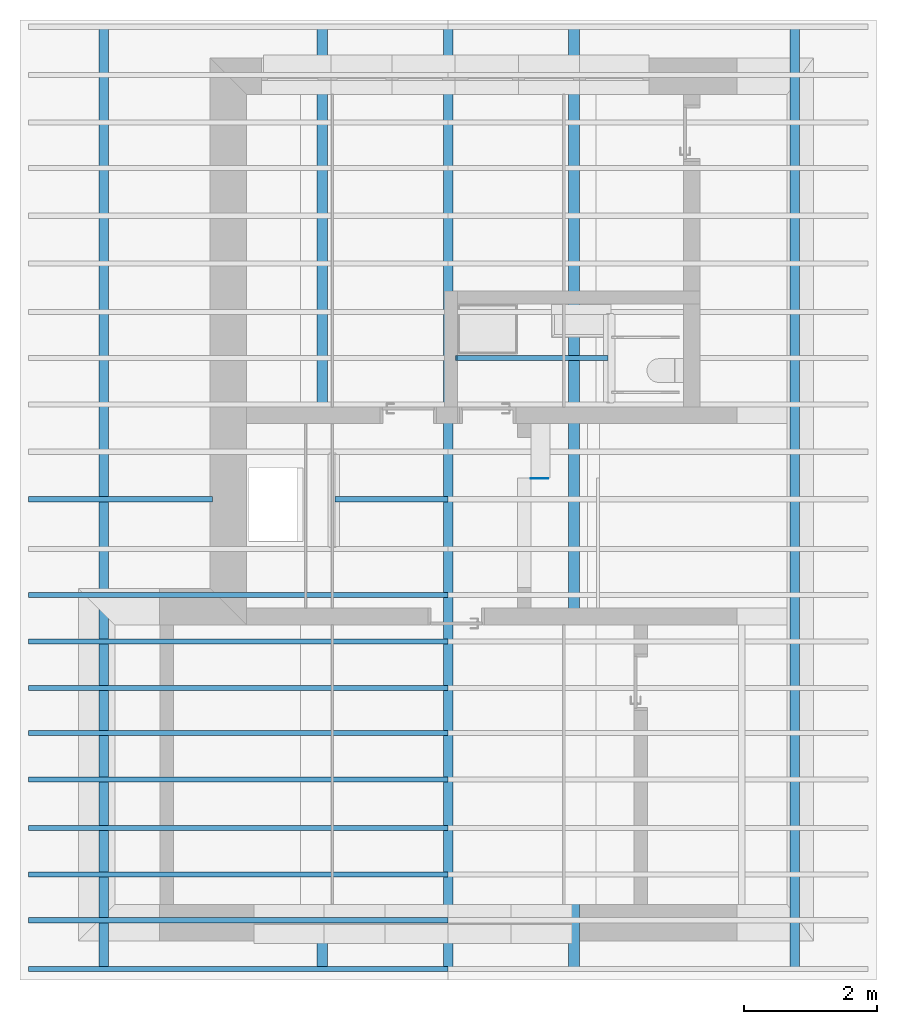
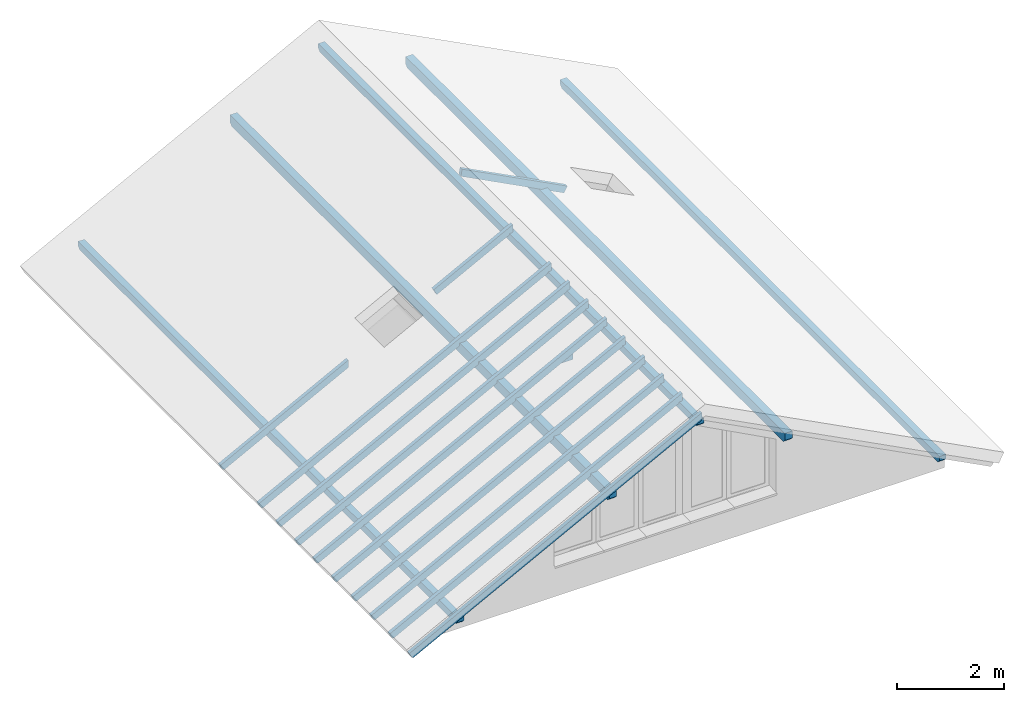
# One storey, part 1 of 18: 17 beams, 1 member, 1 element without a shape of its own.
"""IFC2X3 building model written with IfcOpenShell, lengths in metres."""

from ifc_helpers import new_model, entity, si_unit, converted_unit, derived_unit, direction, frame, frame_2d, origin, place, context, subcontext, project, spatial, rectangle, extrude, clip, halfspace, faceted_brep, material, type_object, element, aggregate, save


model = new_model("IFC2X3")

# Units and contexts
model_context = context("Model", 3, precision=1e-05, world=origin(), true_north=direction((6.123233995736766e-17, 1.0)))
body_context = subcontext(model_context, "Body", "Model", "MODEL_VIEW")
ifc_project = project(units=[si_unit("LENGTHUNIT", "METRE"), si_unit("AREAUNIT", "SQUARE_METRE"), si_unit("VOLUMEUNIT", "CUBIC_METRE"), si_unit("POWERUNIT", "WATT"), derived_unit("USERDEFINED", [(si_unit("MASSUNIT", "GRAM", prefix="KILO"), 1), (si_unit("TIMEUNIT", "SECOND"), -3)]), derived_unit("THERMALRESISTANCEUNIT", [(si_unit("MASSUNIT", "GRAM", prefix="KILO"), -1), (si_unit("TIMEUNIT", "SECOND"), 3), (si_unit("THERMODYNAMICTEMPERATUREUNIT", "KELVIN"), 1)]), derived_unit("USERDEFINED", [(si_unit("MASSUNIT", "GRAM", prefix="KILO"), 1), (si_unit("TIMEUNIT", "SECOND"), -2), (si_unit("THERMODYNAMICTEMPERATUREUNIT", "KELVIN"), -1)]), derived_unit("THERMALTRANSMITTANCEUNIT", [(si_unit("MASSUNIT", "GRAM", prefix="KILO"), 1), (si_unit("TIMEUNIT", "SECOND"), -3), (si_unit("THERMODYNAMICTEMPERATUREUNIT", "KELVIN"), -1)]), converted_unit("PLANEANGLEUNIT", "DEGREE", entity("IfcPlaneAngleMeasure", 0.017453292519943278), si_unit("PLANEANGLEUNIT", "RADIAN"), dimensions=[0, 0, 0, 0, 0, 0, 0]), derived_unit("MOMENTOFINERTIAUNIT", [(si_unit("LENGTHUNIT", "METRE"), 4)])], contexts=[model_context])

# Site, building, storey
site_placement = place(None, origin())
site = spatial("IfcSite", under=ifc_project, at=site_placement, Name="Default", CompositionType="ELEMENT")
building_placement = place(site_placement, origin())
building = spatial("IfcBuilding", under=site, at=building_placement, CompositionType="ELEMENT")
storey_placement = place(building_placement, frame((0.0, 0.0, 5.4)))
storey = spatial("IfcBuildingStorey", under=building, at=storey_placement, Name="1. Obergeschoss", CompositionType="ELEMENT", Elevation=5.4)

# Stair, member
type_product = type_object("IfcTypeProduct", Name="Zusammengebaute Treppe:Wangen Stahl - Stufen Holz - 1 Stockwerkstrennlinie")
stair_placement = place(storey_placement, origin())
stair = element("IfcStair", 1, at=stair_placement, inside=storey, type_object=type_product, Name="Zusammengebaute Treppe:Treppe", ObjectType="Zusammengebaute Treppe:Wangen Stahl - Stufen Holz - 1 Stockwerkstrennlinie", ShapeType="STRAIGHT_RUN_STAIR")
ifc_material_1 = material(Name="<Unnamed>")
member_type = type_object("IfcMemberType", Name="Wange:Metall 10 x 260", PredefinedType="STRINGER")
member_placement = place(stair_placement, frame((34.36875489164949, 22.252272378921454, -0.3500000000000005)))
member = element("IfcMember", 2, at=member_placement, type_object=member_type, material=ifc_material_1, Name="Zusammengebaute Treppe:Treppe:2595612 Stringer 1", ObjectType="Wange:Metall 10 x 260", context=body_context, shape_type="SweptSolid", body=[
    extrude(rectangle(XDim=0.26000000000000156, YDim=0.010000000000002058, at=frame_2d((0.0, -2.1658022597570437e-15), x_axis=(1.0, 0.0))), frame((0.13000000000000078, 0.005000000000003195, 0.0)), (0.0, 0.0, 1.0), 0.26000000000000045),
])
aggregate(stair, [member])

# Beams
ifc_material_2 = material(Name="Holz - Astfichte")
beam_type_1 = type_object("IfcBeamType", Name="Skelettbau Holz - Sparren mit Zierkopf:80 x 150", PredefinedType="BEAM")
beam_1_placement = place(storey_placement, frame((26.80257715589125, 14.827503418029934, 0.05454015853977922), z_axis=(-0.4617486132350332, 0.0, 0.887010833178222), x_axis=(0.887010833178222, 0.0, 0.4617486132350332)))
element("IfcBeam", 3, at=beam_1_placement, inside=storey, type_object=beam_type_1, material=ifc_material_2, Name="Skelettbau Holz - Sparren mit Zierkopf:80 x 150", ObjectType="Skelettbau Holz - Sparren mit Zierkopf:80 x 150", context=body_context, shape_type="Brep", body=[
    faceted_brep([(7.180713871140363, 0.0, 0.10702535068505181), (7.180713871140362, 0.08000000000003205, 0.10702535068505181), (0.05571387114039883, 0.08000000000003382, 0.1070253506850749), (0.055713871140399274, 0.0, 0.1070253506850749), (0.0957138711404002, 0.0, -0.04297464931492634), (0.09571387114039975, 0.08000000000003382, -0.04297464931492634), (0.20571387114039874, 0.08000000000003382, -0.04297464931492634), (7.102628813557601, 0.08000000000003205, -0.042974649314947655), (7.102628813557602, 0.0, -0.042974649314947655), (0.20571387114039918, 0.0, -0.04297464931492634), (0.055713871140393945, 0.08000000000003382, -0.0029746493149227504), (0.0853611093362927, 0.08000000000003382, -0.0416116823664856), (0.0757138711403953, 0.08000000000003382, -0.03761566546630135), (0.06742959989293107, 0.08000000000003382, -0.03125892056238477), (0.0610728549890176, 0.08000000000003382, -0.0229746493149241), (0.057076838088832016, 0.08000000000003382, -0.01332741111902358), (0.05571387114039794, 0.0, -0.002974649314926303), (0.05707683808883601, 0.0, -0.013327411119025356), (0.061072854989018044, 0.0, -0.0229746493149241), (0.06742959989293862, 0.0, -0.031258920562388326), (0.07571387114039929, 0.0, -0.03761566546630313), (0.0853611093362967, 0.0, -0.041611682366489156)], [[[0, 1, 2, 3]], [[4, 5, 6, 7, 8, 9]], [[10, 2, 1, 7, 6, 5, 11, 12, 13, 14, 15]], [[4, 9, 8, 0, 3, 16, 17, 18, 19, 20, 21]], [[16, 10, 15, 17]], [[17, 15, 14, 18]], [[18, 14, 13, 19]], [[20, 12, 11, 21]], [[21, 11, 5, 4]], [[20, 19, 13, 12]], [[3, 2, 10, 16]], [[0, 8, 7, 1]]]),
])
beam_2_placement = place(storey_placement, frame((26.802577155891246, 15.562503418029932, 0.05454015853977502), z_axis=(-0.4617486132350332, 0.0, 0.887010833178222), x_axis=(0.887010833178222, 0.0, 0.4617486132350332)))
element("IfcBeam", 4, at=beam_2_placement, inside=storey, type_object=beam_type_1, material=ifc_material_2, Name="Skelettbau Holz - Sparren mit Zierkopf:80 x 150", ObjectType="Skelettbau Holz - Sparren mit Zierkopf:80 x 150", context=body_context, shape_type="Brep", body=[
    faceted_brep([(7.180713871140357, 0.0, 0.10702535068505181), (7.180713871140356, 0.08000000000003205, 0.10702535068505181), (0.05571387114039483, 0.08000000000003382, 0.10702535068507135), (0.05571387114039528, 0.0, 0.10702535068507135), (0.0957138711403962, 0.0, -0.042974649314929), (0.09571387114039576, 0.08000000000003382, -0.042974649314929), (0.2057138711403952, 0.08000000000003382, -0.042974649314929), (7.102628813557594, 0.08000000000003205, -0.04297464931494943), (7.102628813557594, 0.0, -0.04297464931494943), (0.20571387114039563, 0.0, -0.042974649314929), (0.055713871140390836, 0.08000000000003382, -0.002974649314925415), (0.08536110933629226, 0.08000000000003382, -0.04161168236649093), (0.07571387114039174, 0.08000000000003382, -0.037615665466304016), (0.06742959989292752, 0.08000000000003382, -0.031258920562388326), (0.0610728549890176, 0.08000000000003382, -0.022974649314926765), (0.057076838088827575, 0.08000000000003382, -0.013327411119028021), (0.05571387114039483, 0.0, -0.0029746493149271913), (0.05707683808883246, 0.0, -0.013327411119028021), (0.061072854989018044, 0.0, -0.022974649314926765), (0.06742959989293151, 0.0, -0.0312589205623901), (0.07571387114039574, 0.0, -0.03761566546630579), (0.08536110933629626, 0.0, -0.04161168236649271)], [[[0, 1, 2, 3]], [[4, 5, 6, 7, 8, 9]], [[10, 2, 1, 7, 6, 5, 11, 12, 13, 14, 15]], [[4, 9, 8, 0, 3, 16, 17, 18, 19, 20, 21]], [[16, 10, 15, 17]], [[17, 15, 14, 18]], [[18, 14, 13, 19]], [[20, 12, 11, 21]], [[21, 11, 5, 4]], [[20, 19, 13, 12]], [[3, 2, 10, 16]], [[0, 8, 7, 1]]]),
])
beam_3_placement = place(storey_placement, frame((26.802577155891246, 16.252503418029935, 0.05454015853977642), z_axis=(-0.4617486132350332, 0.0, 0.887010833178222), x_axis=(0.887010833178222, 0.0, 0.4617486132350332)))
element("IfcBeam", 5, at=beam_3_placement, inside=storey, type_object=beam_type_1, material=ifc_material_2, Name="Skelettbau Holz - Sparren mit Zierkopf:80 x 150", ObjectType="Skelettbau Holz - Sparren mit Zierkopf:80 x 150", context=body_context, shape_type="Brep", body=[
    faceted_brep([(7.180713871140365, 0.0, 0.10702535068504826), (7.180713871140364, 0.08000000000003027, 0.10702535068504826), (0.05571387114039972, 0.08000000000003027, 0.10702535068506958), (0.05571387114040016, 0.0, 0.10702535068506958), (0.09571387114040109, 0.0, -0.04297464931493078), (0.09571387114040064, 0.08000000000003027, -0.04297464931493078), (0.20571387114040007, 0.08000000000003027, -0.04297464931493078), (7.102628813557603, 0.08000000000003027, -0.042974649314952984), (7.102628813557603, 0.0, -0.042974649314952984), (0.20571387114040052, 0.0, -0.04297464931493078), (0.05571387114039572, 0.08000000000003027, -0.0029746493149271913), (0.0853611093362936, 0.08000000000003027, -0.04161168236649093), (0.07571387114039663, 0.08000000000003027, -0.03761566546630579), (0.0674295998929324, 0.08000000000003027, -0.0312589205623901), (0.06107285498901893, 0.08000000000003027, -0.02297464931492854), (0.05707683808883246, 0.08000000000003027, -0.013327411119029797), (0.05571387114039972, 0.0, -0.002974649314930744), (0.057076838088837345, 0.0, -0.013327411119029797), (0.061072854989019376, 0.0, -0.02297464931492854), (0.06742959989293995, 0.0, -0.031258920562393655), (0.07571387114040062, 0.0, -0.03761566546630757), (0.08536110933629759, 0.0, -0.041611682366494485)], [[[0, 1, 2, 3]], [[4, 5, 6, 7, 8, 9]], [[10, 2, 1, 7, 6, 5, 11, 12, 13, 14, 15]], [[4, 9, 8, 0, 3, 16, 17, 18, 19, 20, 21]], [[16, 10, 15, 17]], [[17, 15, 14, 18]], [[18, 14, 13, 19]], [[20, 12, 11, 21]], [[21, 11, 5, 4]], [[20, 19, 13, 12]], [[3, 2, 10, 16]], [[0, 8, 7, 1]]]),
])
beam_4_placement = place(storey_placement, frame((26.802577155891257, 16.95250341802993, 0.05454015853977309), z_axis=(-0.4617486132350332, 0.0, 0.887010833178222), x_axis=(0.887010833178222, 0.0, 0.4617486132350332)))
element("IfcBeam", 6, at=beam_4_placement, inside=storey, type_object=beam_type_1, material=ifc_material_2, Name="Skelettbau Holz - Sparren mit Zierkopf:80 x 150", ObjectType="Skelettbau Holz - Sparren mit Zierkopf:80 x 150", context=body_context, shape_type="Brep", body=[
    faceted_brep([(7.180713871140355, 0.0, 0.1070253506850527), (7.180713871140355, 0.08000000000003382, 0.10702535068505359), (0.05571387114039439, 0.08000000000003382, 0.10702535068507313), (0.05571387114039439, 0.0, 0.10702535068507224), (0.09571387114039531, 0.0, -0.042974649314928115), (0.09571387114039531, 0.08000000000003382, -0.04297464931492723), (0.20571387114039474, 0.08000000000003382, -0.04297464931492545), (7.102628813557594, 0.08000000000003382, -0.042974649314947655), (7.102628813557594, 0.0, -0.04297464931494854), (0.20571387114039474, 0.0, -0.04297464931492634), (0.05571387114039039, 0.08000000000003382, -0.002974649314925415), (0.08536110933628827, 0.08000000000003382, -0.041611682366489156), (0.0757138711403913, 0.08000000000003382, -0.03761566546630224), (0.06742959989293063, 0.08000000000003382, -0.031258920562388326), (0.0610728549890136, 0.08000000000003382, -0.02297464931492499), (0.05707683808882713, 0.08000000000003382, -0.013327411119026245), (0.055713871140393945, 0.0, -0.0029746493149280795), (0.05707683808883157, 0.0, -0.013327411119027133), (0.0610728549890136, 0.0, -0.022974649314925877), (0.06742959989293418, 0.0, -0.03125892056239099), (0.07571387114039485, 0.0, -0.037615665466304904), (0.08536110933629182, 0.0, -0.041611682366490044)], [[[0, 1, 2, 3]], [[4, 5, 6, 7, 8, 9]], [[10, 2, 1, 7, 6, 5, 11, 12, 13, 14, 15]], [[4, 9, 8, 0, 3, 16, 17, 18, 19, 20, 21]], [[16, 10, 15, 17]], [[17, 15, 14, 18]], [[18, 14, 13, 19]], [[20, 12, 11, 21]], [[21, 11, 5, 4]], [[20, 19, 13, 12]], [[3, 2, 10, 16]], [[0, 8, 7, 1]]]),
])
beam_5_placement = place(storey_placement, frame((26.80257715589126, 17.68205263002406, 0.05454015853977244), z_axis=(-0.4617486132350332, 0.0, 0.887010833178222), x_axis=(0.887010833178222, 0.0, 0.4617486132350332)))
element("IfcBeam", 7, at=beam_5_placement, inside=storey, type_object=beam_type_1, material=ifc_material_2, Name="Skelettbau Holz - Sparren mit Zierkopf:80 x 150", ObjectType="Skelettbau Holz - Sparren mit Zierkopf:80 x 150", context=body_context, shape_type="Brep", body=[
    faceted_brep([(7.18071387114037, 0.0, 0.10702535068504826), (7.18071387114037, 0.08000000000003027, 0.10702535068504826), (0.05571387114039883, 0.08000000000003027, 0.10702535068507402), (0.05571387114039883, 0.0, 0.10702535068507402), (0.09571387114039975, 0.0, -0.04297464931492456), (0.09571387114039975, 0.08000000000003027, -0.04297464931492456), (0.20571387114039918, 0.08000000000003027, -0.042974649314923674), (7.102628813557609, 0.08000000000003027, -0.04297464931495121), (7.102628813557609, 0.0, -0.04297464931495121), (0.20571387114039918, 0.0, -0.042974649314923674), (0.05571387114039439, 0.08000000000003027, -0.002974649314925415), (0.08536110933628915, 0.08000000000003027, -0.04161168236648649), (0.07571387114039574, 0.08000000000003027, -0.03761566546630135), (0.06742959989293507, 0.08000000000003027, -0.03125892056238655), (0.0610728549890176, 0.08000000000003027, -0.0229746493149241), (0.057076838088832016, 0.08000000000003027, -0.013327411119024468), (0.05571387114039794, 0.0, -0.0029746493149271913), (0.05707683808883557, 0.0, -0.013327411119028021), (0.0610728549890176, 0.0, -0.0229746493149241), (0.06742959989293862, 0.0, -0.031258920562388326), (0.07571387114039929, 0.0, -0.03761566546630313), (0.08536110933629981, 0.0, -0.041611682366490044)], [[[0, 1, 2, 3]], [[4, 5, 6, 7, 8, 9]], [[10, 2, 1, 7, 6, 5, 11, 12, 13, 14, 15]], [[4, 9, 8, 0, 3, 16, 17, 18, 19, 20, 21]], [[16, 10, 15, 17]], [[17, 15, 14, 18]], [[18, 14, 13, 19]], [[20, 12, 11, 21]], [[21, 11, 5, 4]], [[20, 19, 13, 12]], [[3, 2, 10, 16]], [[0, 8, 7, 1]]]),
])
beam_6_placement = place(storey_placement, frame((26.802577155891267, 18.382052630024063, 0.054540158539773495), z_axis=(-0.4617486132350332, 0.0, 0.887010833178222), x_axis=(0.887010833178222, 0.0, 0.4617486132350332)))
element("IfcBeam", 8, at=beam_6_placement, inside=storey, type_object=beam_type_1, material=ifc_material_2, Name="Skelettbau Holz - Sparren mit Zierkopf:80 x 150", ObjectType="Skelettbau Holz - Sparren mit Zierkopf:80 x 150", context=body_context, shape_type="Brep", body=[
    faceted_brep([(7.180713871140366, 0.0, 0.10702535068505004), (7.180713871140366, 0.08000000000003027, 0.10702535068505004), (0.055713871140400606, 0.08000000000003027, 0.10702535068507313), (0.055713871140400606, 0.0, 0.10702535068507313), (0.09571387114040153, 0.0, -0.04297464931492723), (0.09571387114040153, 0.08000000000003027, -0.04297464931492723), (0.2057138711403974, 0.08000000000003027, -0.04297464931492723), (7.102628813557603, 0.08000000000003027, -0.04297464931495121), (7.102628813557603, 0.0, -0.04297464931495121), (0.2057138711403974, 0.0, -0.04297464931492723), (0.055713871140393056, 0.08000000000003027, -0.002974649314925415), (0.08536110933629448, 0.08000000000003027, -0.041611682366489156), (0.07571387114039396, 0.08000000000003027, -0.03761566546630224), (0.06742959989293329, 0.08000000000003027, -0.031258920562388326), (0.06107285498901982, 0.08000000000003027, -0.022974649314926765), (0.057076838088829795, 0.08000000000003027, -0.013327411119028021), (0.05571387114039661, 0.0, -0.0029746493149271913), (0.057076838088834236, 0.0, -0.013327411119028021), (0.06107285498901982, 0.0, -0.022974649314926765), (0.06742959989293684, 0.0, -0.0312589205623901), (0.07571387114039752, 0.0, -0.037615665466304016), (0.08536110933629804, 0.0, -0.04161168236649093)], [[[0, 1, 2, 3]], [[4, 5, 6, 7, 8, 9]], [[10, 2, 1, 7, 6, 5, 11, 12, 13, 14, 15]], [[4, 9, 8, 0, 3, 16, 17, 18, 19, 20, 21]], [[16, 10, 15, 17]], [[17, 15, 14, 18]], [[18, 14, 13, 19]], [[20, 12, 11, 21]], [[21, 11, 5, 4]], [[20, 19, 13, 12]], [[3, 2, 10, 16]], [[0, 8, 7, 1]]]),
])
beam_7_placement = place(storey_placement, frame((26.802577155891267, 19.062052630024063, 0.05454015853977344), z_axis=(-0.4617486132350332, 0.0, 0.887010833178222), x_axis=(0.887010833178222, 0.0, 0.4617486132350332)))
element("IfcBeam", 9, at=beam_7_placement, inside=storey, type_object=beam_type_1, material=ifc_material_2, Name="Skelettbau Holz - Sparren mit Zierkopf:80 x 150", ObjectType="Skelettbau Holz - Sparren mit Zierkopf:80 x 150", context=body_context, shape_type="Brep", body=[
    faceted_brep([(7.180713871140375, 0.0, 0.1070253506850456), (7.180713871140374, 0.08000000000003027, 0.1070253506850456), (0.05571387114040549, 0.08000000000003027, 0.10702535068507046), (0.055713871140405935, 0.0, 0.10702535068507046), (0.09571387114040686, 0.0, -0.04297464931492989), (0.09571387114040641, 0.08000000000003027, -0.04297464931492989), (0.2057138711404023, 0.08000000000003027, -0.04297464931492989), (7.102628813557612, 0.08000000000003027, -0.04297464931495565), (7.102628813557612, 0.0, -0.04297464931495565), (0.20571387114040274, 0.0, -0.04297464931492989), (0.05571387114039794, 0.08000000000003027, -0.0029746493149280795), (0.08536110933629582, 0.08000000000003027, -0.041611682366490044), (0.07571387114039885, 0.08000000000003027, -0.037615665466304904), (0.06742959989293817, 0.08000000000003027, -0.03125892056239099), (0.061072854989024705, 0.08000000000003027, -0.02297464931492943), (0.05707683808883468, 0.08000000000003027, -0.013327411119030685), (0.05571387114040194, 0.0, -0.0029746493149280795), (0.057076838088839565, 0.0, -0.013327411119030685), (0.06107285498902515, 0.0, -0.02297464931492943), (0.06742959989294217, 0.0, -0.03125892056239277), (0.0757138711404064, 0.0, -0.03761566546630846), (0.08536110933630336, 0.0, -0.041611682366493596)], [[[0, 1, 2, 3]], [[4, 5, 6, 7, 8, 9]], [[10, 2, 1, 7, 6, 5, 11, 12, 13, 14, 15]], [[4, 9, 8, 0, 3, 16, 17, 18, 19, 20, 21]], [[16, 10, 15, 17]], [[17, 15, 14, 18]], [[18, 14, 13, 19]], [[20, 12, 11, 21]], [[21, 11, 5, 4]], [[20, 19, 13, 12]], [[3, 2, 10, 16]], [[0, 8, 7, 1]]]),
])
beam_8_placement = place(storey_placement, frame((26.802577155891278, 19.762052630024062, 0.054540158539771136), z_axis=(-0.4617486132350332, 0.0, 0.887010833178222), x_axis=(0.887010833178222, 0.0, 0.4617486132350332)))
element("IfcBeam", 10, at=beam_8_placement, inside=storey, type_object=beam_type_1, material=ifc_material_2, Name="Skelettbau Holz - Sparren mit Zierkopf:80 x 150", ObjectType="Skelettbau Holz - Sparren mit Zierkopf:80 x 150", context=body_context, shape_type="Brep", body=[
    faceted_brep([(7.180713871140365, 0.0, 0.10702535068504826), (7.180713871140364, 0.08000000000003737, 0.10702535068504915), (0.05571387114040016, 0.08000000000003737, 0.1070253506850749), (0.055713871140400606, 0.0, 0.10702535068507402), (0.09571387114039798, 0.0, -0.04297464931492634), (0.09571387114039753, 0.08000000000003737, -0.04297464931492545), (0.20571387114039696, 0.08000000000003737, -0.04297464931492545), (7.102628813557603, 0.08000000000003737, -0.04297464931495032), (7.102628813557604, 0.0, -0.04297464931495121), (0.2057138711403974, 0.0, -0.04297464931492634), (0.055713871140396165, 0.08000000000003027, -0.0029746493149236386), (0.08536110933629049, 0.08000000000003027, -0.0416116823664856), (0.07571387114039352, 0.08000000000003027, -0.03761566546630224), (0.06742959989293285, 0.08000000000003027, -0.03125892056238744), (0.061072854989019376, 0.08000000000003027, -0.02297464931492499), (0.05707683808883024, 0.08000000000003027, -0.013327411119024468), (0.05571387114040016, 0.0, -0.002974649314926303), (0.057076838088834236, 0.0, -0.013327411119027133), (0.06107285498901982, 0.0, -0.022974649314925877), (0.06742959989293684, 0.0, -0.0312589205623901), (0.07571387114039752, 0.0, -0.037615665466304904), (0.08536110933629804, 0.0, -0.041611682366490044)], [[[0, 1, 2, 3]], [[4, 5, 6, 7, 8, 9]], [[10, 2, 1, 7, 6, 5, 11, 12, 13, 14, 15]], [[4, 9, 8, 0, 3, 16, 17, 18, 19, 20, 21]], [[16, 10, 15, 17]], [[17, 15, 14, 18]], [[18, 14, 13, 19]], [[20, 12, 11, 21]], [[21, 11, 5, 4]], [[20, 19, 13, 12]], [[3, 2, 10, 16]], [[0, 8, 7, 1]]]),
])
beam_9_placement = place(storey_placement, frame((26.80257715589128, 20.462052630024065, 0.054540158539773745), z_axis=(-0.4617486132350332, 0.0, 0.887010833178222), x_axis=(0.887010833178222, 0.0, 0.4617486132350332)))
element("IfcBeam", 11, at=beam_9_placement, inside=storey, type_object=beam_type_1, material=ifc_material_2, Name="Skelettbau Holz - Sparren mit Zierkopf:80 x 150", ObjectType="Skelettbau Holz - Sparren mit Zierkopf:80 x 150", context=body_context, shape_type="Brep", body=[
    faceted_brep([(7.180713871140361, 0.0, 0.10702535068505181), (7.18071387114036, 0.08000000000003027, 0.10702535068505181), (0.05571387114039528, 0.08000000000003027, 0.10702535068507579), (0.05571387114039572, 0.0, 0.10702535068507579), (0.09571387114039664, 0.0, -0.04297464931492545), (0.0957138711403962, 0.08000000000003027, -0.04297464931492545), (0.20571387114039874, 0.08000000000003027, -0.04297464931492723), (7.102628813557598, 0.08000000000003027, -0.042974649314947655), (7.102628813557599, 0.0, -0.042974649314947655), (0.20571387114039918, 0.0, -0.04297464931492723), (0.055713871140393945, 0.08000000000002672, -0.0029746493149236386), (0.08536110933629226, 0.08000000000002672, -0.04161168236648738), (0.07571387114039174, 0.08000000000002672, -0.03761566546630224), (0.06742959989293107, 0.08000000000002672, -0.03125892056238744), (0.0610728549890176, 0.08000000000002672, -0.02297464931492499), (0.05707683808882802, 0.08000000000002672, -0.013327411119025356), (0.05571387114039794, 0.0, -0.002974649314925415), (0.05707683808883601, 0.0, -0.013327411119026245), (0.061072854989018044, 0.0, -0.02297464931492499), (0.06742959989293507, 0.0, -0.031258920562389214), (0.07571387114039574, 0.0, -0.037615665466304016), (0.08536110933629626, 0.0, -0.04161168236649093)], [[[0, 1, 2, 3]], [[4, 5, 6, 7, 8, 9]], [[10, 2, 1, 7, 6, 5, 11, 12, 13, 14, 15]], [[4, 9, 8, 0, 3, 16, 17, 18, 19, 20, 21]], [[16, 10, 15, 17]], [[17, 15, 14, 18]], [[18, 14, 13, 19]], [[20, 12, 11, 21]], [[21, 11, 5, 4]], [[20, 19, 13, 12]], [[3, 2, 10, 16]], [[0, 8, 7, 1]]]),
])
beam_10_placement = place(storey_placement, frame((26.802577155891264, 21.90205263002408, 0.05454015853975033), z_axis=(-0.4617486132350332, 0.0, 0.887010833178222), x_axis=(0.887010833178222, 0.0, 0.4617486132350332)))
element("IfcBeam", 12, at=beam_10_placement, inside=storey, type_object=beam_type_1, material=ifc_material_2, Name="Skelettbau Holz - Sparren mit Zierkopf:80 x 150", ObjectType="Skelettbau Holz - Sparren mit Zierkopf:80 x 150", context=body_context, shape_type="Brep", body=[
    faceted_brep([(3.1807138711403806, 0.0, 0.10702535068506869), (3.18071387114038, 0.08000000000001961, 0.10702535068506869), (0.05571387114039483, 0.08000000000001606, 0.10702535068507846), (0.05571387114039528, 0.0, 0.10702535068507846), (0.09571387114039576, 0.0, -0.0429746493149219), (0.09571387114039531, 0.08000000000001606, -0.0429746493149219), (0.20571387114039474, 0.08000000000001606, -0.04297464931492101), (3.1026288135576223, 0.08000000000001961, -0.042974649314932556), (3.1026288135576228, 0.0, -0.042974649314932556), (0.2057138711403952, 0.0, -0.04297464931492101), (0.05571387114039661, 0.08000000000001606, -0.002974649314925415), (0.08536110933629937, 0.08000000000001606, -0.04161168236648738), (0.0757138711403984, 0.08000000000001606, -0.03761566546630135), (0.06742959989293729, 0.08000000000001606, -0.03125892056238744), (0.06107285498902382, 0.08000000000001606, -0.022974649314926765), (0.057076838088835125, 0.08000000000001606, -0.013327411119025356), (0.05571387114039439, 0.0, -0.0029746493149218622), (0.05707683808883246, 0.0, -0.01332741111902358), (0.0610728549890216, 0.0, -0.022974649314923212), (0.06742959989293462, 0.0, -0.03125892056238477), (0.07571387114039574, 0.0, -0.03761566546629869), (0.0853611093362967, 0.0, -0.041611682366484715)], [[[0, 1, 2, 3]], [[4, 5, 6, 7, 8, 9]], [[10, 2, 1, 7, 6, 5, 11, 12, 13, 14, 15]], [[4, 9, 8, 0, 3, 16, 17, 18, 19, 20, 21]], [[16, 10, 15, 17]], [[17, 15, 14, 18]], [[18, 14, 13, 19]], [[20, 12, 11, 21]], [[21, 11, 5, 4]], [[20, 19, 13, 12]], [[16, 3, 2, 10]], [[1, 0, 8, 7]]]),
])
beam_type_2 = type_object("IfcBeamType", Name="Skelettbau Holz - Sparren mit Zierkopf:80 x 150_ohne_Zirkopf", PredefinedType="BEAM")
beam_11_placement = place(storey_placement, frame((31.41503348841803, 21.942052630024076, 2.5762913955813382), z_axis=(-0.4617486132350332, 0.0, 0.887010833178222), x_axis=(0.887010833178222, 0.0, 0.4617486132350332)))
element("IfcBeam", 13, at=beam_11_placement, inside=storey, type_object=beam_type_2, material=ifc_material_2, Name="Skelettbau Holz - Sparren mit Zierkopf:80 x 150_ohne_Zirkopf", ObjectType="Skelettbau Holz - Sparren mit Zierkopf:80 x 150_ohne_Zirkopf", context=body_context, shape_type="Clipping", body=[
    clip(extrude(rectangle(XDim=0.15000000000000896, YDim=0.08000000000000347, at=frame_2d((-1.915134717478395e-15, 4.3298697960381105e-15), x_axis=(1.0, 0.0))), frame((0.0, 0.0, -0.07500000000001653), z_axis=(1.0, 0.0, 0.0), x_axis=(0.0, 0.0, -1.0)), (0.0, 0.0, 1.0), 1.9249999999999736), halfspace(frame((1.885957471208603, -0.0400000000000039, -0.07500000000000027), z_axis=(0.8870108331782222, 0.0, -0.46174861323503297), x_axis=(0.46174861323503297, 0.0, 0.8870108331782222)), False)),
])
beam_12_placement = place(storey_placement, frame((35.52810647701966, 24.07034746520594, 2.212893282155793), z_axis=(0.46174861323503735, 0.0, 0.8870108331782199), x_axis=(-0.8870108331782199, 0.0, 0.46174861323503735)))
element("IfcBeam", 14, at=beam_12_placement, inside=storey, type_object=beam_type_2, material=ifc_material_2, Name="Skelettbau Holz - Sparren mit Zierkopf:80 x 150_ohne_Zirkopf", ObjectType="Skelettbau Holz - Sparren mit Zierkopf:80 x 150_ohne_Zirkopf", context=body_context, shape_type="Clipping", body=[
    clip(extrude(rectangle(XDim=0.15000000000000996, YDim=0.0800000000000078, at=frame_2d((-3.400058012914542e-15, 0.0), x_axis=(1.0, 0.0))), frame((0.0, 0.0, -0.07500000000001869), z_axis=(1.0, 0.0, 0.0), x_axis=(0.0, 0.0, -1.0)), (0.0, 0.0, 1.0), 2.5599999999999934), halfspace(frame((2.535631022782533, -0.0400000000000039, -0.07499999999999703), z_axis=(0.9510565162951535, 0.0, -0.3090169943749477), x_axis=(0.3090169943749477, 0.0, 0.9510565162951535)), False)),
])
beam_type_3 = type_object("IfcBeamType", Name="Skelettbau Holz - Pfette mit 2 Zierköpfen:140 x 160", PredefinedType="BEAM")
beam_13_placement = place(storey_placement, frame((27.93605972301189, 14.867503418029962, 0.7652522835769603), z_axis=(0.0, 0.0, 1.0), x_axis=(0.0, 1.0, 0.0)))
element("IfcBeam", 15, at=beam_13_placement, inside=storey, type_object=beam_type_3, material=ifc_material_2, Name="Skelettbau Holz - Pfette mit 2 Zierköpfen:140 x 160", ObjectType="Skelettbau Holz - Pfette mit 2 Zierköpfen:140 x 160", context=body_context, shape_type="Clipping", body=[
    clip(clip(extrude(rectangle(XDim=0.16000000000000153, YDim=0.14000000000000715, at=frame_2d((0.0, -5.412337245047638e-16), x_axis=(0.0, 1.0))), frame((0.0, 0.0, -0.2593990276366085), z_axis=(1.0, 0.0, 0.0), x_axis=(0.0, 1.0, 0.0)), (0.0, 0.0, 1.0), 14.191966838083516), halfspace(frame((0.0, 14.261966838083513, -0.27939902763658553), z_axis=(-0.7071067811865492, 0.0, -0.7071067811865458), x_axis=(0.0, -1.0, 0.0)), False)), halfspace(frame((14.131966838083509, 14.261966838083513, -0.33939902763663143), z_axis=(0.7071067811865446, 0.0, -0.7071067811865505), x_axis=(0.0, -1.0, 0.0)), False)),
])
beam_14_placement = place(storey_placement, frame((33.12252934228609, 14.86750341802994, 3.465157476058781), z_axis=(0.0, -2.627457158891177e-05, 1.0), x_axis=(0.0, 1.0, 2.627457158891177e-05)))
element("IfcBeam", 16, at=beam_14_placement, inside=storey, type_object=beam_type_3, material=ifc_material_2, Name="Skelettbau Holz - Pfette mit 2 Zierköpfen:140 x 160", ObjectType="Skelettbau Holz - Pfette mit 2 Zierköpfen:140 x 160", context=body_context, shape_type="Clipping", body=[
    clip(clip(extrude(rectangle(XDim=0.1600000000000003, YDim=0.14000000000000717, at=frame_2d((-2.1649348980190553e-15, 5.412337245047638e-16), x_axis=(0.0, 1.0))), frame((0.0, 0.0, -0.2593990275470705), z_axis=(1.0, 0.0, 0.0), x_axis=(0.0, 1.0, 0.0)), (0.0, 0.0, 1.0), 14.191966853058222), halfspace(frame((0.0, 14.261966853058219, -0.2793990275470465), z_axis=(-0.7071067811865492, 0.0, -0.7071067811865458), x_axis=(0.0, -1.0, 0.0)), False)), halfspace(frame((14.131966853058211, 14.261966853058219, -0.3393990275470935), z_axis=(0.7071067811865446, 0.0, -0.7071067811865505), x_axis=(0.0, -1.0, 0.0)), False)),
])
beam_15_placement = place(storey_placement, frame((38.344076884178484, 14.867503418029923, 0.6349999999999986), z_axis=(0.0, 0.0, 1.0), x_axis=(0.0, 1.0, 0.0)))
element("IfcBeam", 17, at=beam_15_placement, inside=storey, type_object=beam_type_3, material=ifc_material_2, Name="Skelettbau Holz - Pfette mit 2 Zierköpfen:140 x 160", ObjectType="Skelettbau Holz - Pfette mit 2 Zierköpfen:140 x 160", context=body_context, shape_type="Clipping", body=[
    clip(clip(extrude(rectangle(XDim=0.16000000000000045, YDim=0.14000000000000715, at=frame_2d((0.0, 0.0), x_axis=(0.0, 1.0))), frame((0.0, 0.0, -0.08000000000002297), z_axis=(1.0, 0.0, 0.0), x_axis=(0.0, 1.0, 0.0)), (0.0, 0.0, 1.0), 14.191966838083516), halfspace(frame((0.0, 14.261966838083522, -0.1), z_axis=(-0.7071067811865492, 0.0, -0.7071067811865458), x_axis=(0.0, -1.0, 0.0)), False)), halfspace(frame((14.131966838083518, 14.261966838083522, -0.16000000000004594), z_axis=(0.7071067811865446, 0.0, -0.7071067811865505), x_axis=(0.0, -1.0, 0.0)), False)),
])
beam_type_4 = type_object("IfcBeamType", Name="Skelettbau Holz - Pfette mit 2 Zierköpfen:160 x 220", PredefinedType="BEAM")
beam_16_placement = place(storey_placement, frame((31.224014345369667, 29.05947025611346, 2.4768531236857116), z_axis=(0.0, 0.0, 1.0), x_axis=(0.0, -1.0, 0.0)))
element("IfcBeam", 18, at=beam_16_placement, inside=storey, type_object=beam_type_4, material=ifc_material_2, Name="Skelettbau Holz - Pfette mit 2 Zierköpfen:160 x 220", ObjectType="Skelettbau Holz - Pfette mit 2 Zierköpfen:160 x 220", context=body_context, shape_type="Clipping", body=[
    clip(clip(extrude(rectangle(XDim=0.2200000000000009, YDim=0.16000000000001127, at=frame_2d((0.0, 0.0), x_axis=(0.0, 1.0))), frame((0.0, 0.0, -0.2600000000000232), z_axis=(1.0, 0.0, 0.0), x_axis=(0.0, 1.0, 0.0)), (0.0, 0.0, 1.0), 14.191966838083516), halfspace(frame((14.13196683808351, 14.271966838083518, -0.37000000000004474), z_axis=(0.7071067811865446, 0.0, -0.7071067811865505), x_axis=(0.0, -1.0, 0.0)), False)), halfspace(frame((0.0, 14.271966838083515, -0.30999999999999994), z_axis=(-0.7071067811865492, 0.0, -0.7071067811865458), x_axis=(0.0, -1.0, 0.0)), False)),
])
beam_17_placement = place(storey_placement, frame((35.01699623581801, 29.059470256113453, 2.4789604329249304), z_axis=(0.0, 0.0, 1.0), x_axis=(0.0, -1.0, 0.0)))
element("IfcBeam", 19, at=beam_17_placement, inside=storey, type_object=beam_type_4, material=ifc_material_2, Name="Skelettbau Holz - Pfette mit 2 Zierköpfen:160 x 220", ObjectType="Skelettbau Holz - Pfette mit 2 Zierköpfen:160 x 220", context=body_context, shape_type="Clipping", body=[
    clip(clip(extrude(rectangle(XDim=0.2200000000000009, YDim=0.16000000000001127, at=frame_2d((-4.3298697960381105e-15, 0.0), x_axis=(0.0, 1.0))), frame((0.0, 0.0, -0.2600000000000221), z_axis=(1.0, 0.0, 0.0), x_axis=(0.0, 1.0, 0.0)), (0.0, 0.0, 1.0), 14.191966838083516), halfspace(frame((14.13196683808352, 14.271966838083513, -0.37000000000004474), z_axis=(0.7071067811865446, 0.0, -0.7071067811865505), x_axis=(0.0, -1.0, 0.0)), False)), halfspace(frame((0.0, 14.271966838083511, -0.3099999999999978), z_axis=(-0.7071067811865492, 0.0, -0.7071067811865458), x_axis=(0.0, -1.0, 0.0)), False)),
])

save(model, "model.ifc")
